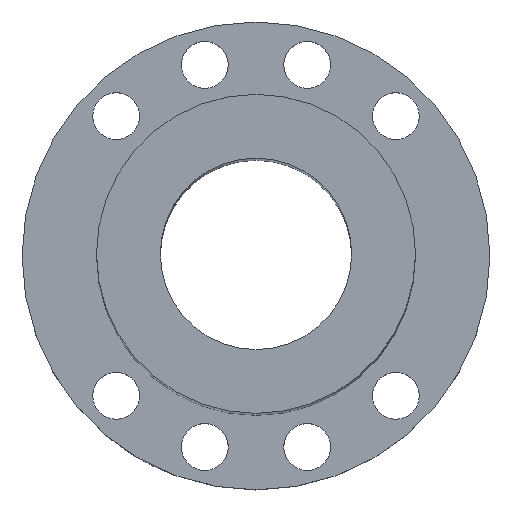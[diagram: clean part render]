
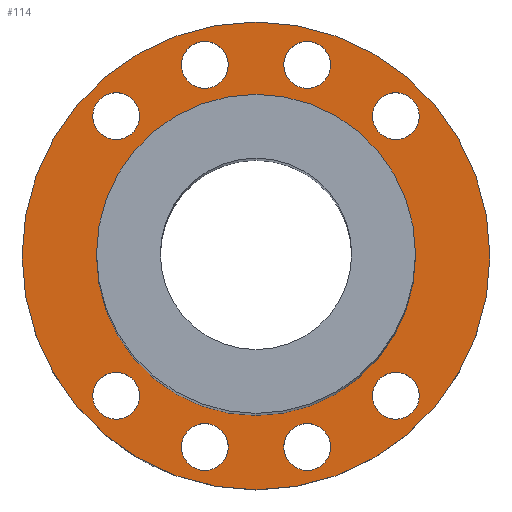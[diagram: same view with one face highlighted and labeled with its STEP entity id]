
A CAD part, top view. The second image highlights one B-rep face of the part: STEP entity #114.
In plain terms, the highlighted planar face has unit normal (0, 0, 1).
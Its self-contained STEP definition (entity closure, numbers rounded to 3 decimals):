
#99=PLANE('',#401);
#114=ADVANCED_FACE('',(#169,#170,#171,#172,#173,#174,#175,#176,#177,#178),
#99,.T.);
#169=FACE_BOUND('',#221,.T.);
#170=FACE_BOUND('',#222,.T.);
#171=FACE_BOUND('',#223,.T.);
#172=FACE_BOUND('',#224,.T.);
#173=FACE_BOUND('',#225,.T.);
#174=FACE_BOUND('',#226,.T.);
#175=FACE_BOUND('',#227,.T.);
#176=FACE_BOUND('',#228,.T.);
#177=FACE_BOUND('',#229,.T.);
#178=FACE_BOUND('',#230,.T.);
#221=EDGE_LOOP('',(#273));
#222=EDGE_LOOP('',(#274));
#223=EDGE_LOOP('',(#275));
#224=EDGE_LOOP('',(#276));
#225=EDGE_LOOP('',(#277));
#226=EDGE_LOOP('',(#278));
#227=EDGE_LOOP('',(#279));
#228=EDGE_LOOP('',(#280));
#229=EDGE_LOOP('',(#281));
#230=EDGE_LOOP('',(#282));
#273=ORIENTED_EDGE('',*,*,#316,.T.);
#274=ORIENTED_EDGE('',*,*,#337,.T.);
#275=ORIENTED_EDGE('',*,*,#318,.T.);
#276=ORIENTED_EDGE('',*,*,#336,.F.);
#277=ORIENTED_EDGE('',*,*,#335,.F.);
#278=ORIENTED_EDGE('',*,*,#334,.T.);
#279=ORIENTED_EDGE('',*,*,#333,.F.);
#280=ORIENTED_EDGE('',*,*,#332,.F.);
#281=ORIENTED_EDGE('',*,*,#331,.T.);
#282=ORIENTED_EDGE('',*,*,#338,.T.);
#290=VERTEX_POINT('',#495);
#292=VERTEX_POINT('',#557);
#305=VERTEX_POINT('',#644);
#306=VERTEX_POINT('',#647);
#307=VERTEX_POINT('',#650);
#308=VERTEX_POINT('',#653);
#309=VERTEX_POINT('',#656);
#310=VERTEX_POINT('',#659);
#311=VERTEX_POINT('',#662);
#312=VERTEX_POINT('',#665);
#316=EDGE_CURVE('',#290,#290,#342,.T.);
#318=EDGE_CURVE('',#292,#292,#343,.T.);
#331=EDGE_CURVE('',#305,#305,#355,.T.);
#332=EDGE_CURVE('',#306,#306,#356,.T.);
#333=EDGE_CURVE('',#307,#307,#357,.T.);
#334=EDGE_CURVE('',#308,#308,#358,.T.);
#335=EDGE_CURVE('',#309,#309,#359,.T.);
#336=EDGE_CURVE('',#310,#310,#360,.T.);
#337=EDGE_CURVE('',#311,#311,#361,.T.);
#338=EDGE_CURVE('',#312,#312,#362,.T.);
#342=CIRCLE('',#367,55.);
#343=CIRCLE('',#369,37.5);
#355=CIRCLE('',#385,5.5);
#356=CIRCLE('',#387,5.5);
#357=CIRCLE('',#389,5.5);
#358=CIRCLE('',#391,5.5);
#359=CIRCLE('',#393,5.5);
#360=CIRCLE('',#395,5.5);
#361=CIRCLE('',#397,5.5);
#362=CIRCLE('',#399,5.5);
#367=AXIS2_PLACEMENT_3D('',#494,#411,#412);
#369=AXIS2_PLACEMENT_3D('',#556,#415,#416);
#385=AXIS2_PLACEMENT_3D('',#643,#447,#448);
#387=AXIS2_PLACEMENT_3D('',#646,#451,#452);
#389=AXIS2_PLACEMENT_3D('',#649,#455,#456);
#391=AXIS2_PLACEMENT_3D('',#652,#459,#460);
#393=AXIS2_PLACEMENT_3D('',#655,#463,#464);
#395=AXIS2_PLACEMENT_3D('',#658,#467,#468);
#397=AXIS2_PLACEMENT_3D('',#661,#471,#472);
#399=AXIS2_PLACEMENT_3D('',#664,#475,#476);
#401=AXIS2_PLACEMENT_3D('',#667,#479,#480);
#411=DIRECTION('',(0.,0.,1.));
#412=DIRECTION('',(1.,0.,0.));
#415=DIRECTION('',(0.,0.,-1.));
#416=DIRECTION('',(1.,0.,0.));
#447=DIRECTION('',(0.,0.,-1.));
#448=DIRECTION('',(-1.,0.,0.));
#451=DIRECTION('',(0.,0.,1.));
#452=DIRECTION('',(1.,0.,0.));
#455=DIRECTION('',(0.,0.,1.));
#456=DIRECTION('',(-1.,0.,0.));
#459=DIRECTION('',(0.,0.,-1.));
#460=DIRECTION('',(-1.,0.,0.));
#463=DIRECTION('',(0.,0.,1.));
#464=DIRECTION('',(-1.,0.,0.));
#467=DIRECTION('',(0.,0.,1.));
#468=DIRECTION('',(1.,0.,0.));
#471=DIRECTION('',(0.,0.,-1.));
#472=DIRECTION('',(1.,0.,0.));
#475=DIRECTION('',(0.,0.,-1.));
#476=DIRECTION('',(1.,0.,0.));
#479=DIRECTION('',(0.,0.,1.));
#480=DIRECTION('',(1.,0.,0.));
#494=CARTESIAN_POINT('',(0.,0.,16.));
#495=CARTESIAN_POINT('',(55.,0.,16.));
#556=CARTESIAN_POINT('',(0.,0.,16.));
#557=CARTESIAN_POINT('',(37.5,0.,16.));
#643=CARTESIAN_POINT('',(32.88,32.88,16.));
#644=CARTESIAN_POINT('',(27.38,32.88,16.));
#646=CARTESIAN_POINT('',(-12.035,44.916,16.));
#647=CARTESIAN_POINT('',(-6.535,44.916,16.));
#649=CARTESIAN_POINT('',(12.035,-44.916,16.));
#650=CARTESIAN_POINT('',(6.535,-44.916,16.));
#652=CARTESIAN_POINT('',(12.035,44.916,16.));
#653=CARTESIAN_POINT('',(6.535,44.916,16.));
#655=CARTESIAN_POINT('',(32.88,-32.88,16.));
#656=CARTESIAN_POINT('',(27.38,-32.88,16.));
#658=CARTESIAN_POINT('',(-32.88,32.88,16.));
#659=CARTESIAN_POINT('',(-27.38,32.88,16.));
#661=CARTESIAN_POINT('',(-32.88,-32.88,16.));
#662=CARTESIAN_POINT('',(-27.38,-32.88,16.));
#664=CARTESIAN_POINT('',(-12.035,-44.916,16.));
#665=CARTESIAN_POINT('',(-6.535,-44.916,16.));
#667=CARTESIAN_POINT('',(-16.44,-16.44,16.));
